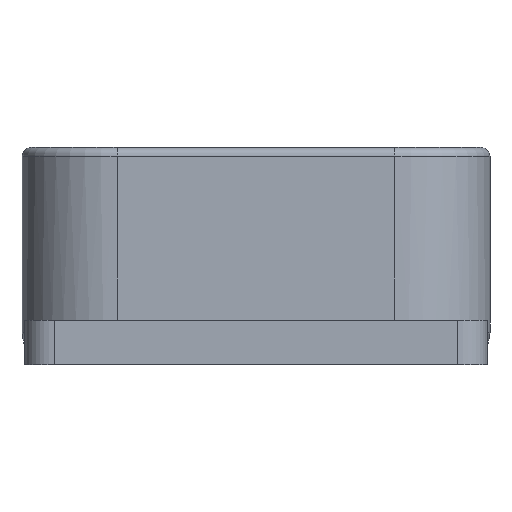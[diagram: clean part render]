
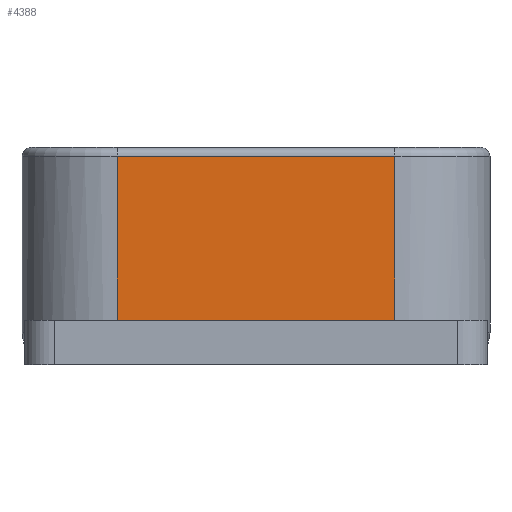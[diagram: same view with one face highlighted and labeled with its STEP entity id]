
A CAD part, left-side view. The second image highlights one B-rep face of the part: STEP entity #4388.
In plain terms, the highlighted planar face has unit normal (-1, 0, 0).
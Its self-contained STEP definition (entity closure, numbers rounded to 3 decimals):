
#44 = CYLINDRICAL_SURFACE('',#45,6.45);
#45 = AXIS2_PLACEMENT_3D('',#46,#47,#48);
#46 = CARTESIAN_POINT('',(3.4,3.4,-2.2));
#47 = DIRECTION('',(0.,0.,1.));
#48 = DIRECTION('',(0.,-1.,0.));
#3821 = CYLINDRICAL_SURFACE('',#3822,6.45);
#3822 = AXIS2_PLACEMENT_3D('',#3823,#3824,#3825);
#3823 = CARTESIAN_POINT('',(3.4,22.2,-2.2));
#3824 = DIRECTION('',(0.,0.,1.));
#3825 = DIRECTION('',(-0.,1.,0.));
#3858 = VERTEX_POINT('',#3859);
#3859 = CARTESIAN_POINT('',(-3.05,22.2,11.9));
#3933 = VERTEX_POINT('',#3934);
#3934 = CARTESIAN_POINT('',(-3.05,22.2,0.8));
#3949 = PLANE('',#3950);
#3950 = AXIS2_PLACEMENT_3D('',#3951,#3952,#3953);
#3951 = CARTESIAN_POINT('',(-9.65,-2.85,0.8));
#3952 = DIRECTION('',(0.,0.,1.));
#3953 = DIRECTION('',(1.,0.,0.));
#3961 = EDGE_CURVE('',#3933,#3858,#3962,.T.);
#3962 = SURFACE_CURVE('',#3963,(#3967,#3974),.PCURVE_S1.);
#3963 = LINE('',#3964,#3965);
#3964 = CARTESIAN_POINT('',(-3.05,22.2,-2.2));
#3965 = VECTOR('',#3966,1.);
#3966 = DIRECTION('',(0.,0.,1.));
#3967 = PCURVE('',#3821,#3968);
#3968 = DEFINITIONAL_REPRESENTATION('',(#3969),#3973);
#3969 = LINE('',#3970,#3971);
#3970 = CARTESIAN_POINT('',(1.571,0.));
#3971 = VECTOR('',#3972,1.);
#3972 = DIRECTION('',(0.,1.));
#3973 = ( GEOMETRIC_REPRESENTATION_CONTEXT(2) 
PARAMETRIC_REPRESENTATION_CONTEXT() REPRESENTATION_CONTEXT('2D SPACE',''
  ) );
#3974 = PCURVE('',#3975,#3980);
#3975 = PLANE('',#3976);
#3976 = AXIS2_PLACEMENT_3D('',#3977,#3978,#3979);
#3977 = CARTESIAN_POINT('',(-3.05,28.65,-2.2));
#3978 = DIRECTION('',(1.,0.,-0.));
#3979 = DIRECTION('',(0.,-1.,0.));
#3980 = DEFINITIONAL_REPRESENTATION('',(#3981),#3985);
#3981 = LINE('',#3982,#3983);
#3982 = CARTESIAN_POINT('',(6.45,0.));
#3983 = VECTOR('',#3984,1.);
#3984 = DIRECTION('',(0.,-1.));
#3985 = ( GEOMETRIC_REPRESENTATION_CONTEXT(2) 
PARAMETRIC_REPRESENTATION_CONTEXT() REPRESENTATION_CONTEXT('2D SPACE',''
  ) );
#4091 = VERTEX_POINT('',#4092);
#4092 = CARTESIAN_POINT('',(-3.05,3.4,0.8));
#4114 = EDGE_CURVE('',#3933,#4091,#4115,.T.);
#4115 = SURFACE_CURVE('',#4116,(#4120,#4126),.PCURVE_S1.);
#4116 = LINE('',#4117,#4118);
#4117 = CARTESIAN_POINT('',(-3.05,12.9,0.8));
#4118 = VECTOR('',#4119,1.);
#4119 = DIRECTION('',(0.,-1.,0.));
#4120 = PCURVE('',#3949,#4121);
#4121 = DEFINITIONAL_REPRESENTATION('',(#4122),#4125);
#4122 = B_SPLINE_CURVE_WITH_KNOTS('',1,(#4123,#4124),.UNSPECIFIED.,.F.,
  .F.,(2,2),(-9.3,9.5),.PIECEWISE_BEZIER_KNOTS.);
#4123 = CARTESIAN_POINT('',(6.6,25.05));
#4124 = CARTESIAN_POINT('',(6.6,6.25));
#4125 = ( GEOMETRIC_REPRESENTATION_CONTEXT(2) 
PARAMETRIC_REPRESENTATION_CONTEXT() REPRESENTATION_CONTEXT('2D SPACE',''
  ) );
#4126 = PCURVE('',#3975,#4127);
#4127 = DEFINITIONAL_REPRESENTATION('',(#4128),#4131);
#4128 = B_SPLINE_CURVE_WITH_KNOTS('',1,(#4129,#4130),.UNSPECIFIED.,.F.,
  .F.,(2,2),(-9.3,9.5),.PIECEWISE_BEZIER_KNOTS.);
#4129 = CARTESIAN_POINT('',(6.45,-3.));
#4130 = CARTESIAN_POINT('',(25.25,-3.));
#4131 = ( GEOMETRIC_REPRESENTATION_CONTEXT(2) 
PARAMETRIC_REPRESENTATION_CONTEXT() REPRESENTATION_CONTEXT('2D SPACE',''
  ) );
#4388 = ADVANCED_FACE('',(#4389),#3975,.F.);
#4389 = FACE_BOUND('',#4390,.F.);
#4390 = EDGE_LOOP('',(#4391,#4392,#4393,#4421));
#4391 = ORIENTED_EDGE('',*,*,#4114,.F.);
#4392 = ORIENTED_EDGE('',*,*,#3961,.T.);
#4393 = ORIENTED_EDGE('',*,*,#4394,.T.);
#4394 = EDGE_CURVE('',#3858,#4395,#4397,.T.);
#4395 = VERTEX_POINT('',#4396);
#4396 = CARTESIAN_POINT('',(-3.05,3.4,11.9));
#4397 = SURFACE_CURVE('',#4398,(#4402,#4409),.PCURVE_S1.);
#4398 = LINE('',#4399,#4400);
#4399 = CARTESIAN_POINT('',(-3.05,22.2,11.9));
#4400 = VECTOR('',#4401,1.);
#4401 = DIRECTION('',(0.,-1.,0.));
#4402 = PCURVE('',#3975,#4403);
#4403 = DEFINITIONAL_REPRESENTATION('',(#4404),#4408);
#4404 = LINE('',#4405,#4406);
#4405 = CARTESIAN_POINT('',(6.45,-14.1));
#4406 = VECTOR('',#4407,1.);
#4407 = DIRECTION('',(1.,0.));
#4408 = ( GEOMETRIC_REPRESENTATION_CONTEXT(2) 
PARAMETRIC_REPRESENTATION_CONTEXT() REPRESENTATION_CONTEXT('2D SPACE',''
  ) );
#4409 = PCURVE('',#4410,#4415);
#4410 = CYLINDRICAL_SURFACE('',#4411,0.6);
#4411 = AXIS2_PLACEMENT_3D('',#4412,#4413,#4414);
#4412 = CARTESIAN_POINT('',(-2.45,22.2,11.9));
#4413 = DIRECTION('',(0.,-1.,0.));
#4414 = DIRECTION('',(-1.,-0.,0.));
#4415 = DEFINITIONAL_REPRESENTATION('',(#4416),#4420);
#4416 = LINE('',#4417,#4418);
#4417 = CARTESIAN_POINT('',(-0.,0.));
#4418 = VECTOR('',#4419,1.);
#4419 = DIRECTION('',(-0.,1.));
#4420 = ( GEOMETRIC_REPRESENTATION_CONTEXT(2) 
PARAMETRIC_REPRESENTATION_CONTEXT() REPRESENTATION_CONTEXT('2D SPACE',''
  ) );
#4421 = ORIENTED_EDGE('',*,*,#4422,.F.);
#4422 = EDGE_CURVE('',#4091,#4395,#4423,.T.);
#4423 = SURFACE_CURVE('',#4424,(#4428,#4435),.PCURVE_S1.);
#4424 = LINE('',#4425,#4426);
#4425 = CARTESIAN_POINT('',(-3.05,3.4,-2.2));
#4426 = VECTOR('',#4427,1.);
#4427 = DIRECTION('',(0.,0.,1.));
#4428 = PCURVE('',#3975,#4429);
#4429 = DEFINITIONAL_REPRESENTATION('',(#4430),#4434);
#4430 = LINE('',#4431,#4432);
#4431 = CARTESIAN_POINT('',(25.25,0.));
#4432 = VECTOR('',#4433,1.);
#4433 = DIRECTION('',(0.,-1.));
#4434 = ( GEOMETRIC_REPRESENTATION_CONTEXT(2) 
PARAMETRIC_REPRESENTATION_CONTEXT() REPRESENTATION_CONTEXT('2D SPACE',''
  ) );
#4435 = PCURVE('',#44,#4436);
#4436 = DEFINITIONAL_REPRESENTATION('',(#4437),#4441);
#4437 = LINE('',#4438,#4439);
#4438 = CARTESIAN_POINT('',(-1.571,0.));
#4439 = VECTOR('',#4440,1.);
#4440 = DIRECTION('',(-0.,1.));
#4441 = ( GEOMETRIC_REPRESENTATION_CONTEXT(2) 
PARAMETRIC_REPRESENTATION_CONTEXT() REPRESENTATION_CONTEXT('2D SPACE',''
  ) );
